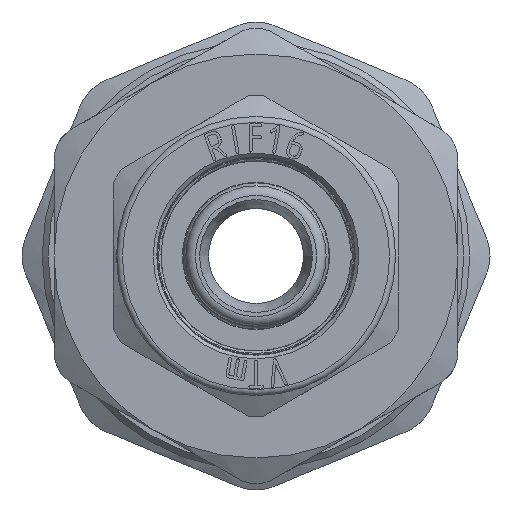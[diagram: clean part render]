
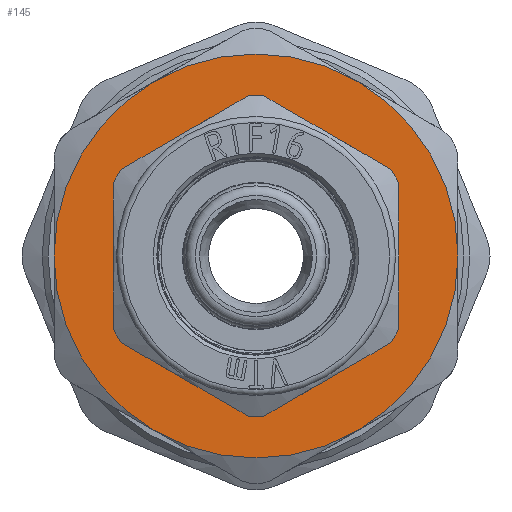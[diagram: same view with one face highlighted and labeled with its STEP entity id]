
A CAD part, front view. The second image highlights one B-rep face of the part: STEP entity #145.
In plain terms, the highlighted planar face has unit normal (0, -1, 0).
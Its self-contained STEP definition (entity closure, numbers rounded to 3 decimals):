
#145=ADVANCED_FACE('',(#1296,#1298),#1300,.F.);
#1296=FACE_BOUND('',#1297,.T.);
#1297=EDGE_LOOP('',(#5096,#5097,#5098));
#1298=FACE_BOUND('',#1299,.T.);
#1299=EDGE_LOOP('',(#5099));
#1300=PLANE('',#1301);
#1301=AXIS2_PLACEMENT_3D('',#1302,#1303,#1304);
#1302=CARTESIAN_POINT('',(0.,-3.75,0.));
#1303=DIRECTION('',(0.,1.,0.));
#1304=DIRECTION('',(-1.,0.,0.));
#5096=ORIENTED_EDGE('',*,*,#8632,.T.);
#5097=ORIENTED_EDGE('',*,*,#8633,.T.);
#5098=ORIENTED_EDGE('',*,*,#8634,.T.);
#5099=ORIENTED_EDGE('',*,*,#8597,.F.);
#8597=EDGE_CURVE('',#10212,#10212,#10213,.T.);
#8632=EDGE_CURVE('',#10236,#10216,#10270,.F.);
#8633=EDGE_CURVE('',#10216,#10250,#10271,.F.);
#8634=EDGE_CURVE('',#10250,#10236,#10272,.F.);
#10212=VERTEX_POINT('',#14032);
#10213=CIRCLE('',#14033,9.1);
#10216=VERTEX_POINT('',#14041);
#10236=VERTEX_POINT('',#14357);
#10250=VERTEX_POINT('',#14569);
#10270=CIRCLE('',#14712,17.);
#10271=CIRCLE('',#14716,17.);
#10272=CIRCLE('',#14720,17.);
#14032=CARTESIAN_POINT('',(9.1,-3.75,0.));
#14033=AXIS2_PLACEMENT_3D('',#14034,#14035,#14036);
#14034=CARTESIAN_POINT('',(0.,-3.75,0.));
#14035=DIRECTION('',(0.,-1.,0.));
#14036=DIRECTION('',(1.,0.,0.));
#14041=CARTESIAN_POINT('',(-17.,-3.75,0.));
#14357=CARTESIAN_POINT('',(17.,-3.75,0.));
#14569=CARTESIAN_POINT('',(-8.5,-3.75,-14.722));
#14712=AXIS2_PLACEMENT_3D('',#14713,#14714,#14715);
#14713=CARTESIAN_POINT('',(0.,-3.75,0.));
#14714=DIRECTION('',(0.,1.,0.));
#14715=DIRECTION('',(-1.,0.,0.));
#14716=AXIS2_PLACEMENT_3D('',#14717,#14718,#14719);
#14717=CARTESIAN_POINT('',(0.,-3.75,0.));
#14718=DIRECTION('',(0.,1.,0.));
#14719=DIRECTION('',(-0.5,0.,-0.866));
#14720=AXIS2_PLACEMENT_3D('',#14721,#14722,#14723);
#14721=CARTESIAN_POINT('',(0.,-3.75,0.));
#14722=DIRECTION('',(0.,1.,0.));
#14723=DIRECTION('',(1.,0.,0.));
